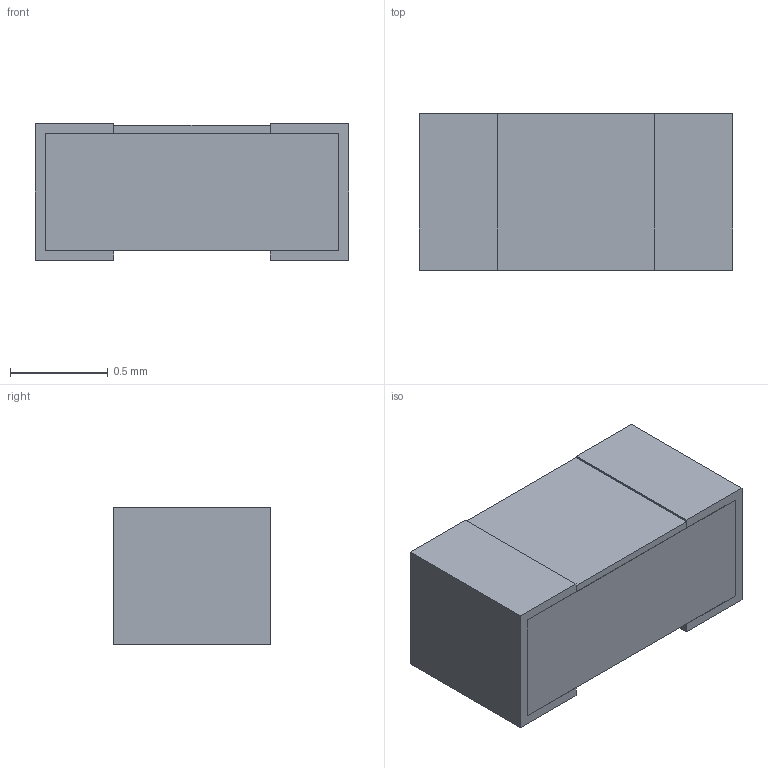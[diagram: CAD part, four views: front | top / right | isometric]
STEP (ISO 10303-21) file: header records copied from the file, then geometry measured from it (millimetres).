
FILE_DESCRIPTION(('STEP AP203'), '1');
FILE_NAME('Ð1-16Ï-0,05', '', ('UNSPECIFIED'), ('UNSPECIFIED'), 'ASCON STEP Converter 1.6', 'ASCON Math Kernel', '');
FILE_SCHEMA(('CONFIG_CONTROL_DESIGN'));
Length unit declared in the file: millimetre
Bounding box: 1.6 x 0.8 x 0.7 mm (x, y, z)
Volume: 0.9 mm3; surface area: 11.5 mm2
Topology: 4 solids, 4 shells, 32 faces, 72 edges, 48 vertices
Faces by surface type: plane 32
Entity records: 1194 total; most frequent: CARTESIAN_POINT 153, ORIENTED_EDGE 144, DIRECTION 138, EDGE_CURVE 72, LINE 72, VECTOR 72, VERTEX_POINT 48, COLOUR_RGB 36
